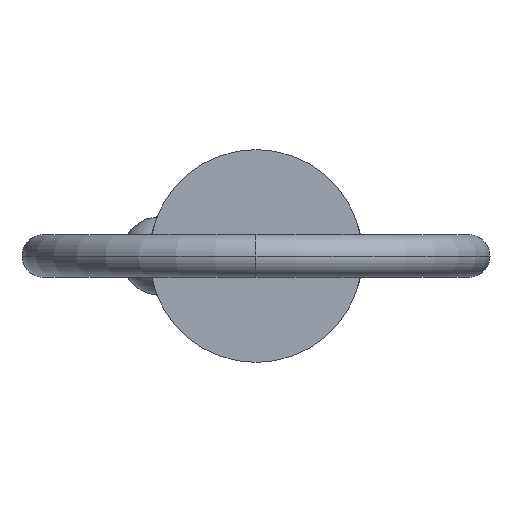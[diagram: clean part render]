
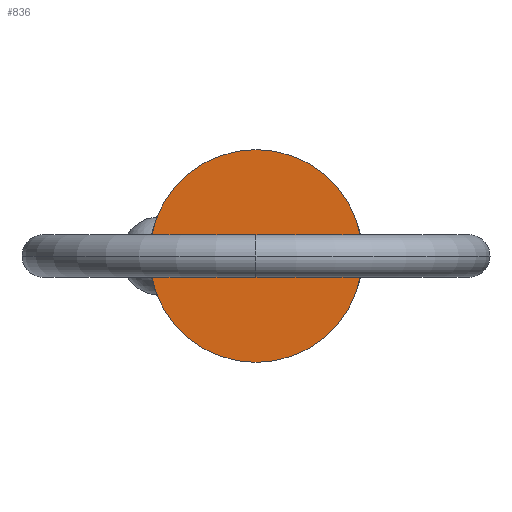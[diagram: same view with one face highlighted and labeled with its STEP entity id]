
A CAD part, left-side view. The second image highlights one B-rep face of the part: STEP entity #836.
In plain terms, the highlighted planar face has unit normal (-1, 0, 0).
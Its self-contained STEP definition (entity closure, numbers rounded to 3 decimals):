
#59 = CIRCLE ( 'NONE', #877, 7.94 ) ;
#98 = DIRECTION ( 'NONE',  ( 1., 0., 0. ) ) ;
#123 = CARTESIAN_POINT ( 'NONE',  ( 0., 0., 0. ) ) ;
#125 = AXIS2_PLACEMENT_3D ( 'NONE', #123, #536, #473 ) ;
#188 = DIRECTION ( 'NONE',  ( 0., 0., -1. ) ) ;
#193 = AXIS2_PLACEMENT_3D ( 'NONE', #269, #323, #188 ) ;
#208 = ORIENTED_EDGE ( 'NONE', *, *, #583, .F. ) ;
#261 = VERTEX_POINT ( 'NONE', #319 ) ;
#264 = PLANE ( 'NONE',  #125 ) ;
#269 = CARTESIAN_POINT ( 'NONE',  ( 0., 0., 0. ) ) ;
#319 = CARTESIAN_POINT ( 'NONE',  ( 0., 0., -7.94 ) ) ;
#323 = DIRECTION ( 'NONE',  ( 1., 0., 0. ) ) ;
#441 = DIRECTION ( 'NONE',  ( 0., 0., -1. ) ) ;
#472 = CIRCLE ( 'NONE', #193, 7.94 ) ;
#473 = DIRECTION ( 'NONE',  ( 0., 0., 1. ) ) ;
#479 = VERTEX_POINT ( 'NONE', #561 ) ;
#536 = DIRECTION ( 'NONE',  ( -1., 0., 0. ) ) ;
#561 = CARTESIAN_POINT ( 'NONE',  ( 0., 0., 7.94 ) ) ;
#583 = EDGE_CURVE ( 'NONE', #261, #479, #59, .T. ) ;
#649 = CARTESIAN_POINT ( 'NONE',  ( 0., 0., 0. ) ) ;
#756 = EDGE_CURVE ( 'NONE', #479, #261, #472, .T. ) ;
#760 = ORIENTED_EDGE ( 'NONE', *, *, #756, .F. ) ;
#836 = ADVANCED_FACE ( 'NONE', ( #888 ), #264, .T. ) ;
#877 = AXIS2_PLACEMENT_3D ( 'NONE', #649, #98, #441 ) ;
#888 = FACE_OUTER_BOUND ( 'NONE', #891, .T. ) ;
#891 = EDGE_LOOP ( 'NONE', ( #208, #760 ) ) ;
